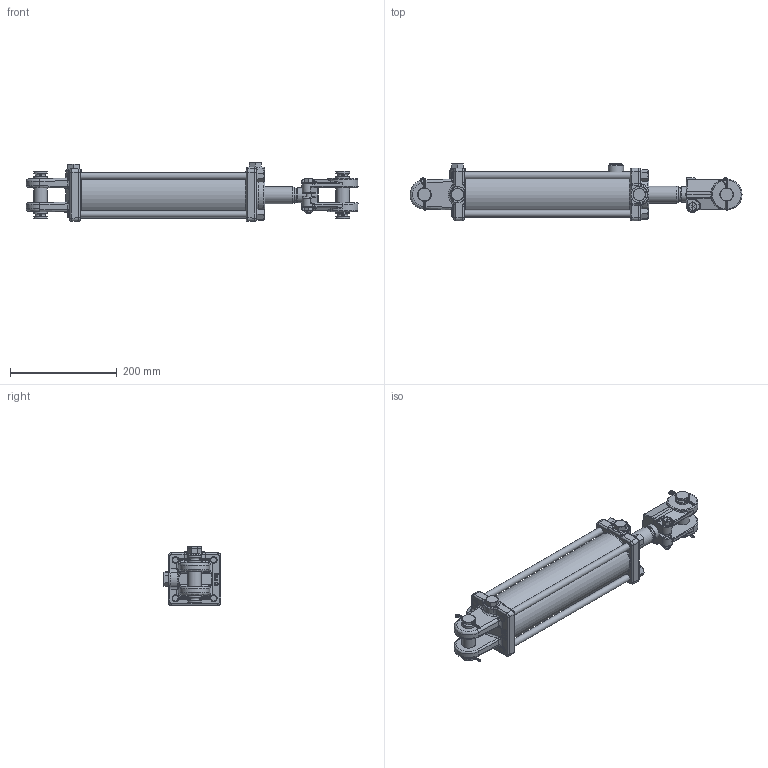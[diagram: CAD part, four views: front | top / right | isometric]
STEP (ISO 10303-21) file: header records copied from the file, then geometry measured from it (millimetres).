
FILE_DESCRIPTION((''),'2;1');
FILE_NAME('\\Srvr-eng\engsales\PMS-AM-2625SP.stp','2010-12-29T14:37:49',('kneifld'),(''),'Autodesk Inventor 2010','Autodesk Inventor 2010','');
FILE_SCHEMA(('AUTOMOTIVE_DESIGN { 1 0 10303 214 1 1 1 1 }'));
Length unit declared in the file: inch
Products named in the file (29): PMS-AM-2625SP; 061500638; 051500676; 200300181V; 1415005SFV; 010600437; 100000423V; 100000422V; 170002104V; 220000203V; 071500397V; 220000209V; 190400001V; 220001504V; 240011095V; 240064300V; 240000026V; 240061232V; 240000232V; 081500337V; 081500338V; 210600293V; 250014125V; 240020184V; 170201123AV; 170201143; 220000105V; 200300040V; 200300104V
Assembly tree (39 placements, depth 3):
  PMS-AM-2625SP
    061500638
      051500676
      200300181V
    1415005SFV
    010600437
    100000423V
      100000422V
      170002104V
      220000203V
    071500397V
    220000209V
    190400001V  x2
    220001504V  x4
    240011095V
    240064300V
    240000026V
    240061232V  x2
    240000232V  x2
    081500337V
      081500338V
      210600293V
    250014125V
    240020184V
    170201123AV  x4
      170201143
      220000105V
    200300040V  x3
    200300104V
Bounding box: 620.66 x 108.14 x 110.29 mm (x, y, z)
Volume: 1868165.6 mm3; surface area: 495303.7 mm2
Topology: 38 solids, 38 shells, 1137 faces, 2648 edges, 1599 vertices
Faces by surface type: plane 351, bspline 320, cylinder 255, cone 163, torus 31, sphere 17
Full cylindrical faces by diameter (mm): 1.575 x1, 2.769 x1, 5.159 x4, 9.493 x1, 10.319 x2, 12.7 x4, 16.764 x3, 19.05 x4, 22.174 x1, 22.301 x1, 22.352 x1, 25.4 x6, 25.781 x4, 25.806 x1, 28.372 x1, 28.575 x1, 31.725 x2, 31.75 x2, 32.004 x1, 32.702 x1, 33.376 x1, 34.188 x1, 34.798 x1, 35.707 x1, 35.719 x1, 37.948 x1, 38.964 x1, 40.323 x1, 40.488 x1, 41.173 x1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
Entity records: 33159 total; most frequent: CARTESIAN_POINT 13055, ORIENTED_EDGE 3972, DIRECTION 3701, EDGE_CURVE 1986, AXIS2_PLACEMENT_3D 1507, VERTEX_POINT 1289, EDGE_LOOP 1193, FACE_OUTER_BOUND 934
